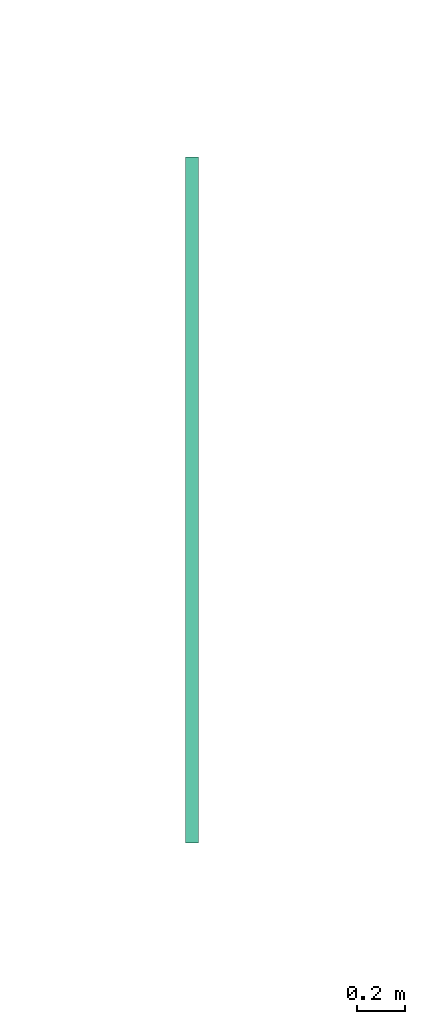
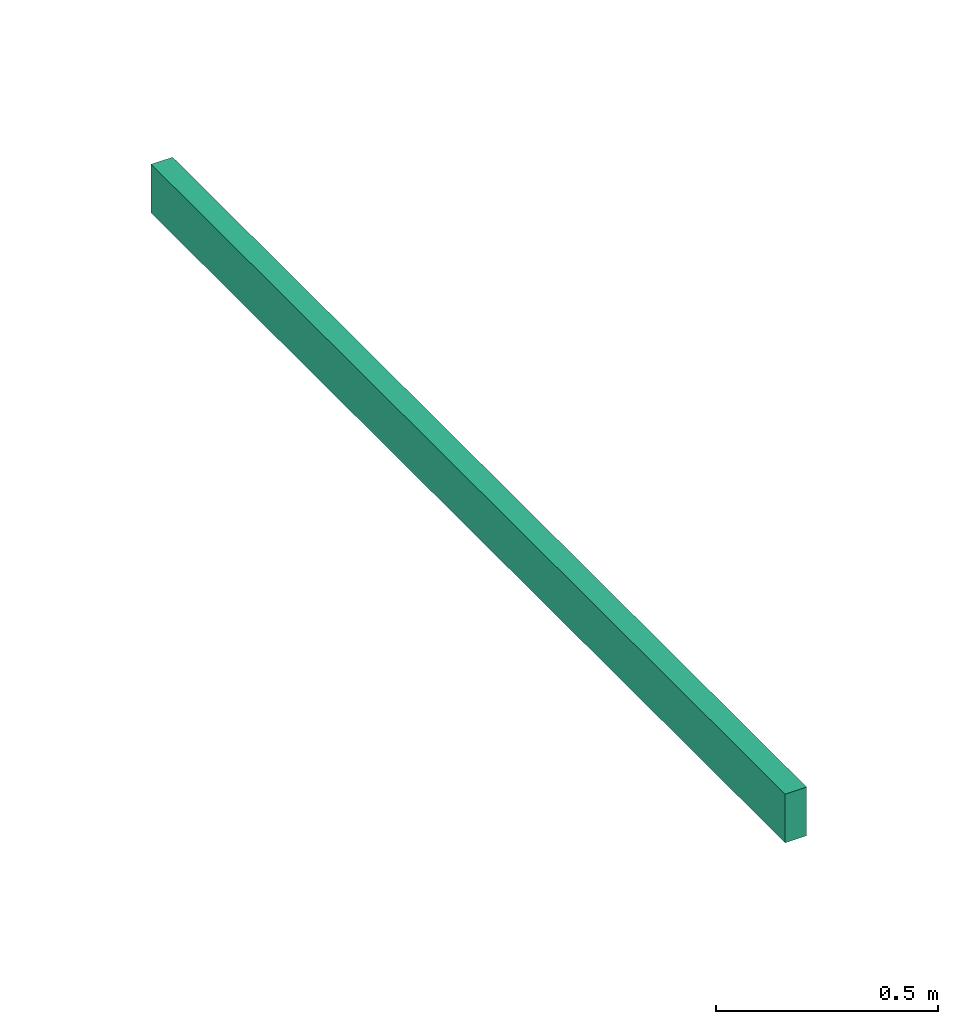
# One storey, part 1 of 9: 1 flow segment.
"""IFC2X3 building model written with IfcOpenShell, lengths in metres."""

from ifc_helpers import new_model, entity, si_unit, converted_unit, derived_unit, direction, frame, frame_2d, origin, place, context, subcontext, project, spatial, rectangle, extrude, type_object, element, save


model = new_model("IFC2X3")

# Units and contexts
model_context = context("Model", 3, precision=1e-05, world=origin(), true_north=direction((6.12303176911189e-17, 1.0)))
body_context = subcontext(model_context, "Body", "Model", "MODEL_VIEW")
ifc_project = project(units=[si_unit("LENGTHUNIT", "METRE"), si_unit("AREAUNIT", "SQUARE_METRE"), si_unit("VOLUMEUNIT", "CUBIC_METRE"), converted_unit("PLANEANGLEUNIT", "DEGREE", entity("IfcRatioMeasure", 0.0174532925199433), si_unit("PLANEANGLEUNIT", "RADIAN"), dimensions=[0, 0, 0, 0, 0, 0, 0]), si_unit("MASSUNIT", "GRAM", prefix="KILO"), derived_unit("MASSDENSITYUNIT", [(si_unit("MASSUNIT", "GRAM", prefix="KILO"), 1), (si_unit("LENGTHUNIT", "METRE"), -3)]), si_unit("TIMEUNIT", "SECOND"), si_unit("FREQUENCYUNIT", "HERTZ"), si_unit("THERMODYNAMICTEMPERATUREUNIT", "DEGREE_CELSIUS"), derived_unit("THERMALTRANSMITTANCEUNIT", [(si_unit("MASSUNIT", "GRAM", prefix="KILO"), 1), (si_unit("THERMODYNAMICTEMPERATUREUNIT", "KELVIN"), -1), (si_unit("TIMEUNIT", "SECOND"), -3)]), derived_unit("VOLUMETRICFLOWRATEUNIT", [(si_unit("LENGTHUNIT", "METRE"), 3), (si_unit("TIMEUNIT", "SECOND"), -1)]), si_unit("ELECTRICCURRENTUNIT", "AMPERE"), si_unit("ELECTRICVOLTAGEUNIT", "VOLT"), si_unit("POWERUNIT", "WATT"), si_unit("FORCEUNIT", "NEWTON"), si_unit("ILLUMINANCEUNIT", "LUX"), si_unit("LUMINOUSFLUXUNIT", "LUMEN"), si_unit("LUMINOUSINTENSITYUNIT", "CANDELA"), derived_unit("USERDEFINED", [(si_unit("MASSUNIT", "GRAM", prefix="KILO"), -1), (si_unit("LENGTHUNIT", "METRE"), -2), (si_unit("TIMEUNIT", "SECOND"), 3), (si_unit("LUMINOUSFLUXUNIT", "LUMEN"), 1)]), derived_unit("LINEARVELOCITYUNIT", [(si_unit("LENGTHUNIT", "METRE"), 1), (si_unit("TIMEUNIT", "SECOND"), -1)]), si_unit("PRESSUREUNIT", "PASCAL"), derived_unit("USERDEFINED", [(si_unit("LENGTHUNIT", "METRE"), -2), (si_unit("MASSUNIT", "GRAM", prefix="KILO"), 1), (si_unit("TIMEUNIT", "SECOND"), -2)])], contexts=[model_context])

# Site, building, storey
site_placement = place(None, origin())
site = spatial("IfcSite", under=ifc_project, at=site_placement, Name="Default", CompositionType="ELEMENT")
building_placement = place(site_placement, origin())
building = spatial("IfcBuilding", under=site, at=building_placement, CompositionType="ELEMENT")
storey_placement = place(building_placement, frame((0.0, 0.0, -0.0599999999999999)))
storey = spatial("IfcBuildingStorey", under=building, at=storey_placement, Name="S01", CompositionType="ELEMENT", Elevation=-0.0599999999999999)

# Flow segment
cable_carrier_segment_type = type_object("IfcCableCarrierSegmentType", Name="Cable Tray with Fittings:Goulottes de câbles indéfini_Goulottes de câbles", PredefinedType="NOTDEFINED")
flow_segment_placement = place(storey_placement, origin())
element("IfcFlowSegment", 1, at=flow_segment_placement, inside=storey, type_object=cable_carrier_segment_type, Name="Cable Tray with Fittings:Goulottes de câbles indéfini_Goulottes de câbles", ObjectType="Cable Tray with Fittings:Goulottes de câbles indéfini_Goulottes de câbles", context=body_context, shape_type="SweptSolid", body=[
    extrude(rectangle(XDim=2.85899999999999, YDim=0.0559999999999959, at=frame_2d((-1.73194791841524e-14, 0.0), x_axis=(1.0, 0.0))), frame((26.1642872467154, -189.187196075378, 0.3), z_axis=(0.0, 0.0, 1.0), x_axis=(0.0, -1.0, 0.0)), (0.0, 0.0, 1.0), 0.134),
])

save(model, "model.ifc")
